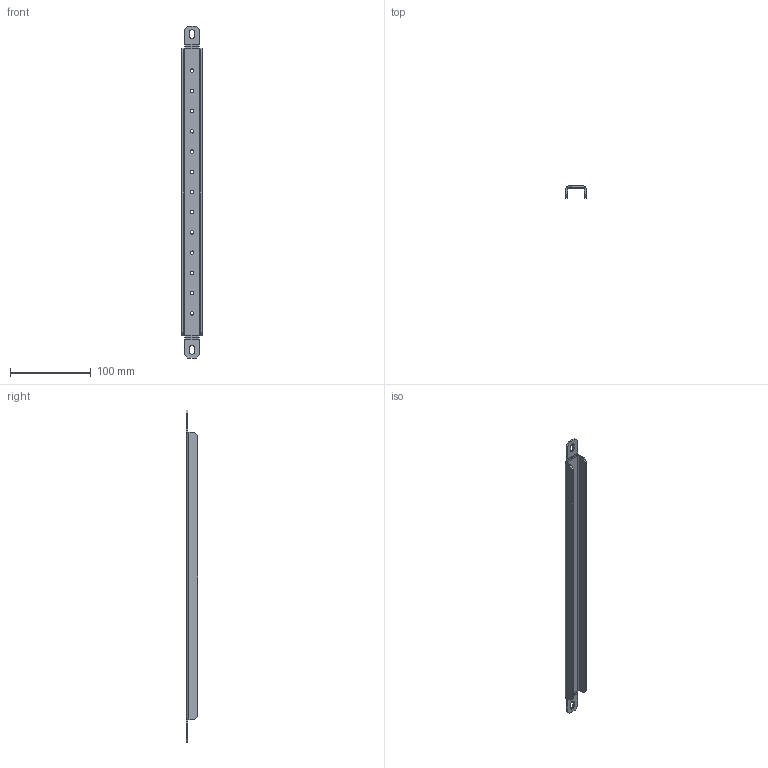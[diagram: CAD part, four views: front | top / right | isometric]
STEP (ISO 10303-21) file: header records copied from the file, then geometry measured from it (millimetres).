
FILE_DESCRIPTION (( 'STEP AP203' ), '1' );
FILE_NAME ('VB 55 G Ðåéêà äëÿ ãëóõîé äâåðè v1.STEP', '2022-08-10T15:40:38', ( '' ), ( '' ), 'SwSTEP 2.0', 'SolidWorks 2018', '' );
FILE_SCHEMA (( 'CONFIG_CONTROL_DESIGN' ));
Length unit declared in the file: millimetre
Products named in the file (1): VB 55 G Ðåéêà äëÿ ãëóõîé äâåðè v1
Bounding box: 25 x 14.5 x 410.31 mm (x, y, z)
Volume: 35246.2 mm3; surface area: 37499.8 mm2
Topology: 1 solids, 1 shells, 102 faces, 252 edges, 152 vertices
Faces by surface type: plane 66, cylinder 36
Entity records: 3101 total; most frequent: DIRECTION 530, CARTESIAN_POINT 507, ORIENTED_EDGE 504, EDGE_CURVE 252, VECTOR 180, LINE 180, AXIS2_PLACEMENT_3D 175, VERTEX_POINT 152
